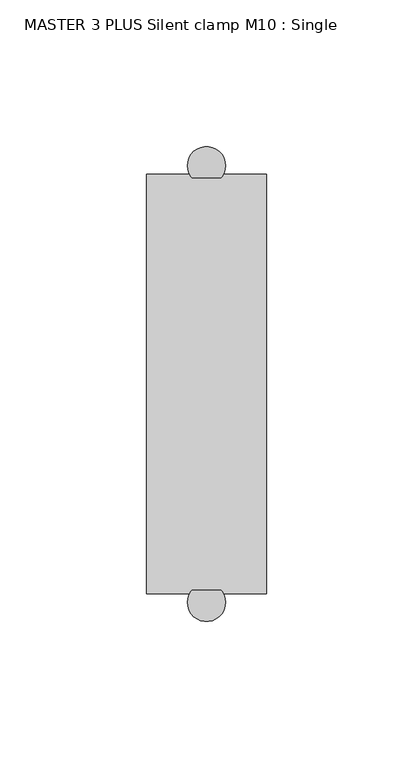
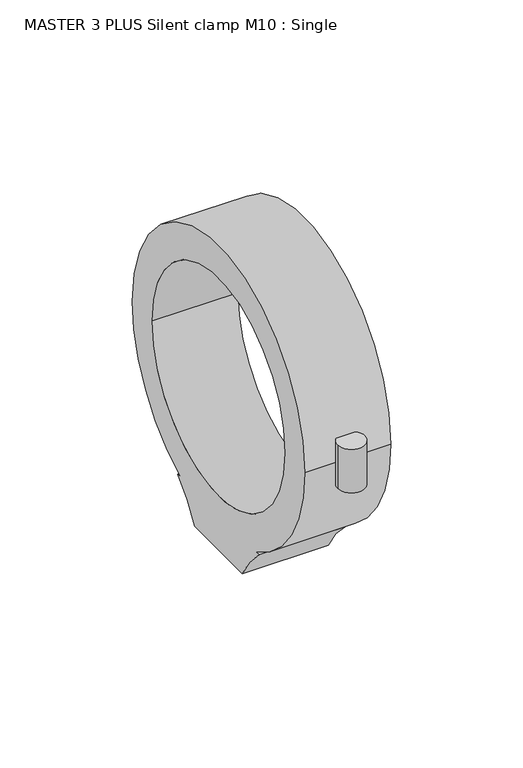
"""IFC4 building model written with IfcOpenShell, lengths in millimetres: valve geometry, MASTER 3 PLUS Silent clamp M10 : Single."""

from ifc_helpers import new_model, si_unit, point, frame, frame_2d, origin, origin_2d, place, context, project, spatial, polyline, circle_curve, trimmed, segment, composite_curve, outline, extrude, source, transform, mapped, element, save


def master_3_plus_silent_clamp_m10_single_733a417d(model_context):
    return source(origin(), model_context, "Body", "SweptSolid", [
        extrude(outline(composite_curve([segment(trimmed(circle_curve(frame_2d((20.5, 74.5)), 6.5), [point((14.0, 74.5))], [point((27.0, 74.5))], False, "CARTESIAN"), True, "CONTINUOUS"), segment(trimmed(circle_curve(frame_2d((20.5, 74.5)), 6.5), [point((27.0, 74.5))], [point((14.0, 74.5))], False, "CARTESIAN"), True, "CONTINUOUS")], self_intersect=False)), frame((0.0, 0.0, -11.0), z_axis=(0.0, 0.0, 1.0), x_axis=(1.0, 0.0, 0.0)), (0.0, 0.0, 1.0), 22.0),
        extrude(outline(composite_curve([segment(trimmed(circle_curve(frame_2d((20.5, -74.5)), 6.5), [point((14.0, -74.5))], [point((27.0, -74.5))], False, "CARTESIAN"), True, "CONTINUOUS"), segment(trimmed(circle_curve(frame_2d((20.5, -74.5)), 6.5), [point((27.0, -74.5))], [point((14.0, -74.5))], False, "CARTESIAN"), True, "CONTINUOUS")], self_intersect=False)), frame((0.0, 0.0, -11.0), z_axis=(0.0, 0.0, 1.0), x_axis=(1.0, 0.0, 0.0)), (0.0, 0.0, 1.0), 22.0),
        extrude(outline(composite_curve([segment(trimmed(circle_curve(origin_2d(), 71.5), [point((-71.5, 0.0))], [point((71.5, 0.0))], False, "CARTESIAN"), True, "CONTINUOUS"), segment(trimmed(circle_curve(origin_2d(), 71.5), [point((71.5, 0.0))], [point((30.8544972, -64.5))], False, "CARTESIAN"), True, "CONTINUOUS"), segment(polyline([(30.8544972, -64.5), (33.7273532, -64.5)]), True, "CONTINUOUS"), segment(trimmed(circle_curve(frame_2d((73.3561953, -109.5505813)), 60.0), [point((33.7273532, -64.5))], [point((19.8, -82.5))], True, "CARTESIAN"), True, "CONTINUOUS"), segment(polyline([(19.8, -82.5), (-19.8, -82.5)]), True, "CONTINUOUS"), segment(trimmed(circle_curve(frame_2d((-73.3561953, -109.5505813)), 60.0), [point((-19.8, -82.5))], [point((-33.7273532, -64.5))], True, "CARTESIAN"), True, "CONTINUOUS"), segment(polyline([(-33.7273532, -64.5), (-30.8544972, -64.5)]), True, "CONTINUOUS"), segment(trimmed(circle_curve(origin_2d(), 71.5), [point((-30.8544972, -64.5))], [point((-71.5, 0.0))], False, "CARTESIAN"), True, "CONTINUOUS")], self_intersect=False), holes=[composite_curve([segment(trimmed(circle_curve(origin_2d(), 55.0), [point((-55.0, 0.0))], [point((55.0, 0.0))], True, "CARTESIAN"), True, "CONTINUOUS"), segment(trimmed(circle_curve(origin_2d(), 55.0), [point((55.0, 0.0))], [point((-55.0, 0.0))], True, "CARTESIAN"), True, "CONTINUOUS")], self_intersect=False)]), frame((0.0, 0.0, 0.0), z_axis=(1.0, 0.0, 0.0), x_axis=(0.0, 1.0, 0.0)), (0.0, 0.0, 1.0), 41.0),
    ])


if __name__ == "__main__":
    model = new_model("IFC4")
    model_context = context("Model", 3, world=origin())
    ifc_project = project(units=[si_unit("LENGTHUNIT", "METRE", prefix="MILLI")], contexts=[model_context])
    site = spatial("IfcSite", under=ifc_project)
    building = spatial("IfcBuilding", under=site)
    placement = place(None, origin())
    master_3_plus_silent_clamp_m10_single_shape = master_3_plus_silent_clamp_m10_single_733a417d(model_context)
    element("IfcValve", 1, ObjectType="MASTER 3 PLUS Silent clamp M10 : Single", at=placement, inside=building, context=model_context, shape_type="MappedRepresentation", body=[
        mapped(master_3_plus_silent_clamp_m10_single_shape, transform((0.0, 0.0, 0.0), x_axis=(1.0, 0.0, 0.0), y_axis=(0.0, 1.0, 0.0), z_axis=(0.0, 0.0, 1.0))),
    ])
    save(model, "model.ifc")
